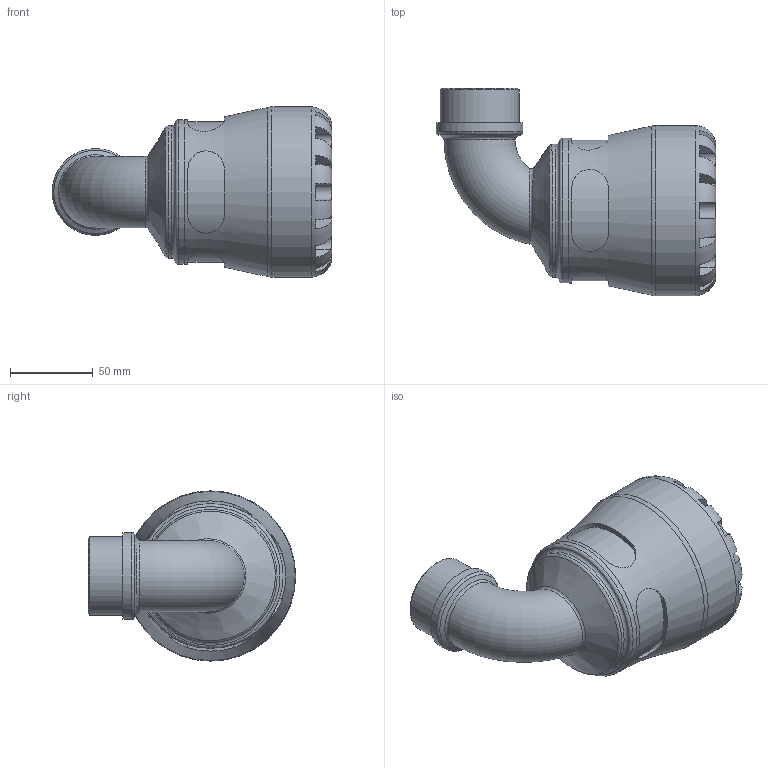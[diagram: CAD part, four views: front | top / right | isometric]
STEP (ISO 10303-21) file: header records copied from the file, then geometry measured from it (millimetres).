
FILE_DESCRIPTION(/* description */ ('PLASSON 90° ELBOW WITH MALE INTEGRAL BRASS 63X1.1/2" SERIES 1'),/* implementation_level */ '2;1');
FILE_NAME(/* name */ 'C:\Dropbox\KIMPROJECTS-Inventor\99-16-3568-Processing\S1\1077\107700063015_197700063015.ipt.stp',/* time_stamp */ '2018-05-13T11:03:46+03:00',/* author */ ('KIM'),/* organization */ (''),/* preprocessor_version */ 'ST-DEVELOPER v15.6',/* originating_system */ 'Autodesk Inventor 2015',/* authorisation */ '');
FILE_SCHEMA (('AUTOMOTIVE_DESIGN { 1 0 10303 214 3 1 1 }'));
Length unit declared in the file: millimetre
Products named in the file (1): 107700063015_197700063015
Bounding box: 169.29 x 125.5 x 103 mm (x, y, z)
Volume: 495823.4 mm3; surface area: 87461.1 mm2
Topology: 1 solids, 1 shells, 111 faces, 275 edges, 171 vertices
Faces by surface type: plane 60, cylinder 36, torus 8, bspline 4, cone 3
Full cylindrical faces by diameter (mm): 33.462 x2, 47.803 x1, 52.583 x1, 63 x1, 80.34 x1, 87.55 x1, 103 x1
Entity records: 4524 total; most frequent: CARTESIAN_POINT 1956, ORIENTED_EDGE 492, DIRECTION 487, EDGE_CURVE 246, AXIS2_PLACEMENT_3D 203, VERTEX_POINT 162, EDGE_LOOP 138, STYLED_ITEM 112
